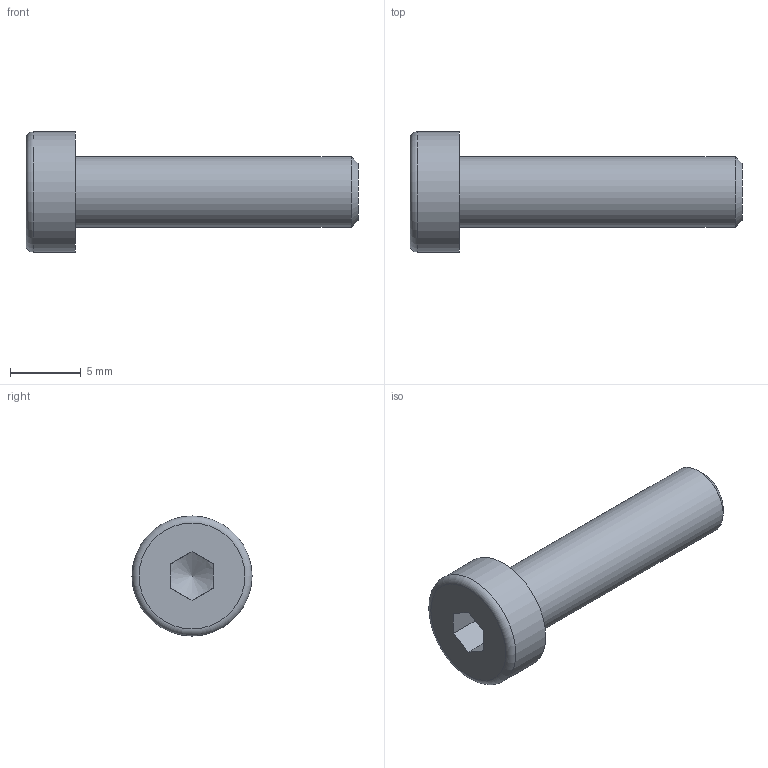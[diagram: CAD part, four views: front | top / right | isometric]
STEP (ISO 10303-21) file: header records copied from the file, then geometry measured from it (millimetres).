
FILE_DESCRIPTION((''),'2;1');
FILE_NAME('C:\Documents and Settings\Administrator\My Documents\Andys Backup Data\ANDY''S INVENTOR\INVENTOR LIBRARIES\MINITEC INVENTOR LIBRARIES\FASTENING ELEMENTS\SCREWS CAP\step\21.1222 M5X20.stp','2010-06-30T08:46:38',('Administrator'),(''),'Autodesk Inventor 2009','Autodesk Inventor 2009','');
FILE_SCHEMA(('AUTOMOTIVE_DESIGN { 1 0 10303 214 1 1 1 1 }'));
Length unit declared in the file: millimetre
Products named in the file (1): 21.1222 M5 x 20
Bounding box: 23.5 x 8.5 x 8.5 mm (x, y, z)
Volume: 564 mm3; surface area: 540.6 mm2
Topology: 1 solids, 1 shells, 14 faces, 30 edges, 19 vertices
Faces by surface type: plane 9, cone 2, cylinder 2, torus 1
Full cylindrical faces by diameter (mm): 5 x1, 8.5 x1
Entity records: 362 total; most frequent: CARTESIAN_POINT 69, DIRECTION 54, ORIENTED_EDGE 48, EDGE_CURVE 24, AXIS2_PLACEMENT_3D 21, EDGE_LOOP 20, VERTEX_POINT 18, FACE_OUTER_BOUND 14
